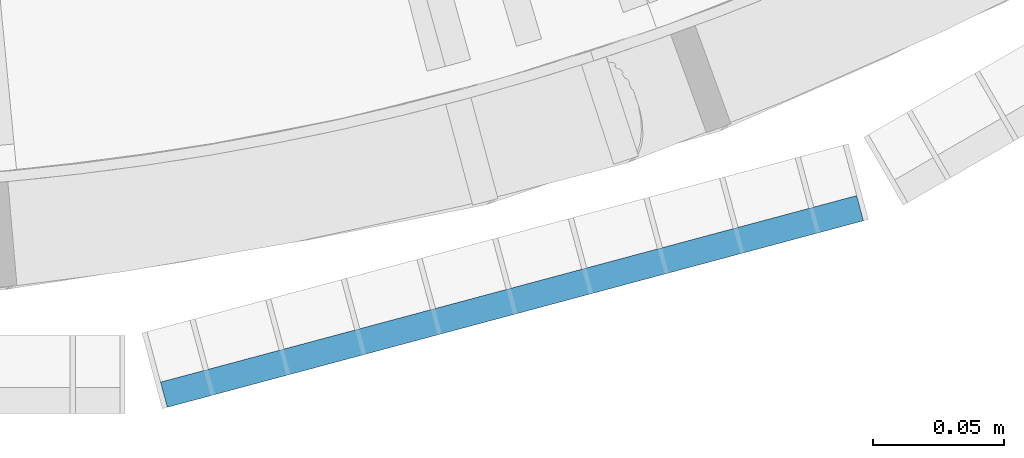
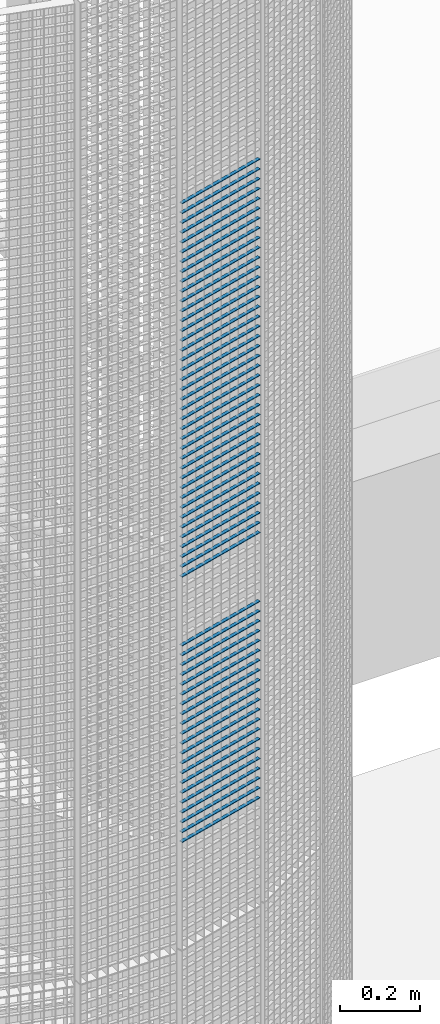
# One storey, part 377 of 1148: 60 beams, 1 element without a shape of its own.
"""IFC2X3 building model written with IfcOpenShell, lengths in millimetres."""

from ifc_helpers import new_model, si_unit, frame, origin_with_axes, origin_2d_with_axis, place, context, subcontext, project, spatial, rectangle, extrude, material, type_object, element, aggregate, save


model = new_model("IFC2X3")

# Units and contexts
model_context = context("Model", 3, precision=1e-05, world=origin_with_axes())
body_context = subcontext(model_context, "Body", "Model", "MODEL_VIEW")
ifc_project = project(units=[si_unit("LENGTHUNIT", "METRE", prefix="MILLI"), si_unit("AREAUNIT", "SQUARE_METRE"), si_unit("VOLUMEUNIT", "CUBIC_METRE"), si_unit("MASSUNIT", "GRAM", prefix="KILO"), si_unit("TIMEUNIT", "SECOND"), si_unit("PLANEANGLEUNIT", "RADIAN"), si_unit("SOLIDANGLEUNIT", "STERADIAN"), si_unit("THERMODYNAMICTEMPERATUREUNIT", "DEGREE_CELSIUS"), si_unit("LUMINOUSINTENSITYUNIT", "LUMEN")], contexts=[model_context])

# Site, building, storey
site_placement = place(None, origin_with_axes())
site = spatial("IfcSite", under=ifc_project, at=site_placement, Name="Undefined", CompositionType="ELEMENT")
building_placement = place(site_placement, origin_with_axes())
building = spatial("IfcBuilding", under=site, at=building_placement, Name="Undefined", CompositionType="ELEMENT")
storey_placement = place(building_placement, origin_with_axes())
storey = spatial("IfcBuildingStorey", under=building, at=storey_placement, Name="Undefined", CompositionType="ELEMENT", Elevation=0.0)

# Assembly, beams
assembly_placement = place(storey_placement, origin_with_axes())
assembly = element("IfcElementAssembly", 1, at=assembly_placement, inside=storey, Name="BORDURE", AssemblyPlace="NOTDEFINED", PredefinedType="NOTDEFINED")
ifc_material = material(Name="STEEL/S235JR")
beam_type = type_object("IfcBeamType", Name="PL2*10", PredefinedType="NOTDEFINED")
beam_1_placement = place(assembly_placement, frame((22021.4837339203, -1039.82309522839, 17280.0), z_axis=(0.258819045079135, -0.965925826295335, 0.0), x_axis=(-0.965925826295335, -0.258819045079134, 0.0)))
beam_1 = element("IfcBeam", 2, at=beam_1_placement, type_object=beam_type, material=ifc_material, Name="ENTRETOISE", context=body_context, shape_type="SweptSolid", body=[
    extrude(rectangle(XDim=2.0, YDim=10.0, at=origin_2d_with_axis()), frame((275.999999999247, 9.09494701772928e-13, 1.53210777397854e-14), z_axis=(-1.0, 0.0, 0.0), x_axis=(0.0, -1.0, 0.0)), (0.0, 0.0, 1.0), 276.0),
])
beam_2_placement = place(assembly_placement, frame((22021.4837339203, -1039.82309522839, 17250.0), z_axis=(0.258819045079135, -0.965925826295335, 0.0), x_axis=(-0.965925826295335, -0.258819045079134, 0.0)))
beam_2 = element("IfcBeam", 3, at=beam_2_placement, type_object=beam_type, material=ifc_material, Name="ENTRETOISE", context=body_context, shape_type="SweptSolid", body=[
    extrude(rectangle(XDim=2.0, YDim=10.0, at=origin_2d_with_axis()), frame((275.999999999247, 9.09494701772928e-13, 1.53210777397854e-14), z_axis=(-1.0, 0.0, 0.0), x_axis=(0.0, -1.0, 0.0)), (0.0, 0.0, 1.0), 276.0),
])
beam_3_placement = place(assembly_placement, frame((22021.4837339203, -1039.82309522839, 17220.0), z_axis=(0.258819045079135, -0.965925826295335, 0.0), x_axis=(-0.965925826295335, -0.258819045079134, 0.0)))
beam_3 = element("IfcBeam", 4, at=beam_3_placement, type_object=beam_type, material=ifc_material, Name="ENTRETOISE", context=body_context, shape_type="SweptSolid", body=[
    extrude(rectangle(XDim=2.0, YDim=10.0, at=origin_2d_with_axis()), frame((275.999999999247, 9.09494701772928e-13, 1.53210777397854e-14), z_axis=(-1.0, 0.0, 0.0), x_axis=(0.0, -1.0, 0.0)), (0.0, 0.0, 1.0), 276.0),
])
beam_4_placement = place(assembly_placement, frame((22021.4837339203, -1039.82309522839, 17190.0), z_axis=(0.258819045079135, -0.965925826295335, 0.0), x_axis=(-0.965925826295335, -0.258819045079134, 0.0)))
beam_4 = element("IfcBeam", 5, at=beam_4_placement, type_object=beam_type, material=ifc_material, Name="ENTRETOISE", context=body_context, shape_type="SweptSolid", body=[
    extrude(rectangle(XDim=2.0, YDim=10.0, at=origin_2d_with_axis()), frame((275.999999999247, 9.09494701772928e-13, 1.53210777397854e-14), z_axis=(-1.0, 0.0, 0.0), x_axis=(0.0, -1.0, 0.0)), (0.0, 0.0, 1.0), 276.0),
])
beam_5_placement = place(assembly_placement, frame((22021.4837339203, -1039.82309522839, 17160.0), z_axis=(0.258819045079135, -0.965925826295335, 0.0), x_axis=(-0.965925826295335, -0.258819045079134, 0.0)))
beam_5 = element("IfcBeam", 6, at=beam_5_placement, type_object=beam_type, material=ifc_material, Name="ENTRETOISE", context=body_context, shape_type="SweptSolid", body=[
    extrude(rectangle(XDim=2.0, YDim=10.0, at=origin_2d_with_axis()), frame((275.999999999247, 9.09494701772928e-13, 1.53210777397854e-14), z_axis=(-1.0, 0.0, 0.0), x_axis=(0.0, -1.0, 0.0)), (0.0, 0.0, 1.0), 276.0),
])
beam_6_placement = place(assembly_placement, frame((22021.4837339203, -1039.82309522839, 17130.0), z_axis=(0.258819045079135, -0.965925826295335, 0.0), x_axis=(-0.965925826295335, -0.258819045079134, 0.0)))
beam_6 = element("IfcBeam", 7, at=beam_6_placement, type_object=beam_type, material=ifc_material, Name="ENTRETOISE", context=body_context, shape_type="SweptSolid", body=[
    extrude(rectangle(XDim=2.0, YDim=10.0, at=origin_2d_with_axis()), frame((275.999999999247, 9.09494701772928e-13, 1.53210777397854e-14), z_axis=(-1.0, 0.0, 0.0), x_axis=(0.0, -1.0, 0.0)), (0.0, 0.0, 1.0), 276.0),
])
beam_7_placement = place(assembly_placement, frame((22021.4837339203, -1039.82309522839, 17100.0), z_axis=(0.258819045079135, -0.965925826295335, 0.0), x_axis=(-0.965925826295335, -0.258819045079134, 0.0)))
beam_7 = element("IfcBeam", 8, at=beam_7_placement, type_object=beam_type, material=ifc_material, Name="ENTRETOISE", context=body_context, shape_type="SweptSolid", body=[
    extrude(rectangle(XDim=2.0, YDim=10.0, at=origin_2d_with_axis()), frame((275.999999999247, 9.09494701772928e-13, 1.53210777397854e-14), z_axis=(-1.0, 0.0, 0.0), x_axis=(0.0, -1.0, 0.0)), (0.0, 0.0, 1.0), 276.0),
])
beam_8_placement = place(assembly_placement, frame((22021.4837339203, -1039.82309522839, 17070.0), z_axis=(0.258819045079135, -0.965925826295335, 0.0), x_axis=(-0.965925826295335, -0.258819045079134, 0.0)))
beam_8 = element("IfcBeam", 9, at=beam_8_placement, type_object=beam_type, material=ifc_material, Name="ENTRETOISE", context=body_context, shape_type="SweptSolid", body=[
    extrude(rectangle(XDim=2.0, YDim=10.0, at=origin_2d_with_axis()), frame((275.999999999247, 9.09494701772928e-13, 1.53210777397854e-14), z_axis=(-1.0, 0.0, 0.0), x_axis=(0.0, -1.0, 0.0)), (0.0, 0.0, 1.0), 276.0),
])
beam_9_placement = place(assembly_placement, frame((22021.4837339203, -1039.82309522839, 17040.0), z_axis=(0.258819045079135, -0.965925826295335, 0.0), x_axis=(-0.965925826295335, -0.258819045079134, 0.0)))
beam_9 = element("IfcBeam", 10, at=beam_9_placement, type_object=beam_type, material=ifc_material, Name="ENTRETOISE", context=body_context, shape_type="SweptSolid", body=[
    extrude(rectangle(XDim=2.0, YDim=10.0, at=origin_2d_with_axis()), frame((275.999999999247, 9.09494701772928e-13, 1.53210777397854e-14), z_axis=(-1.0, 0.0, 0.0), x_axis=(0.0, -1.0, 0.0)), (0.0, 0.0, 1.0), 276.0),
])
beam_10_placement = place(assembly_placement, frame((22021.4837339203, -1039.82309522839, 17010.0), z_axis=(0.258819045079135, -0.965925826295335, 0.0), x_axis=(-0.965925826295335, -0.258819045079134, 0.0)))
beam_10 = element("IfcBeam", 11, at=beam_10_placement, type_object=beam_type, material=ifc_material, Name="ENTRETOISE", context=body_context, shape_type="SweptSolid", body=[
    extrude(rectangle(XDim=2.0, YDim=10.0, at=origin_2d_with_axis()), frame((275.999999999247, 9.09494701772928e-13, 1.53210777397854e-14), z_axis=(-1.0, 0.0, 0.0), x_axis=(0.0, -1.0, 0.0)), (0.0, 0.0, 1.0), 276.0),
])
beam_11_placement = place(assembly_placement, frame((22021.4837339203, -1039.82309522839, 16980.0), z_axis=(0.258819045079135, -0.965925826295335, 0.0), x_axis=(-0.965925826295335, -0.258819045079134, 0.0)))
beam_11 = element("IfcBeam", 12, at=beam_11_placement, type_object=beam_type, material=ifc_material, Name="ENTRETOISE", context=body_context, shape_type="SweptSolid", body=[
    extrude(rectangle(XDim=2.0, YDim=10.0, at=origin_2d_with_axis()), frame((275.999999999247, 9.09494701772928e-13, 1.53210777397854e-14), z_axis=(-1.0, 0.0, 0.0), x_axis=(0.0, -1.0, 0.0)), (0.0, 0.0, 1.0), 276.0),
])
beam_12_placement = place(assembly_placement, frame((22021.4837339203, -1039.82309522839, 16950.0), z_axis=(0.258819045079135, -0.965925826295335, 0.0), x_axis=(-0.965925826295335, -0.258819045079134, 0.0)))
beam_12 = element("IfcBeam", 13, at=beam_12_placement, type_object=beam_type, material=ifc_material, Name="ENTRETOISE", context=body_context, shape_type="SweptSolid", body=[
    extrude(rectangle(XDim=2.0, YDim=10.0, at=origin_2d_with_axis()), frame((275.999999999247, 9.09494701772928e-13, 1.53210777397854e-14), z_axis=(-1.0, 0.0, 0.0), x_axis=(0.0, -1.0, 0.0)), (0.0, 0.0, 1.0), 276.0),
])
beam_13_placement = place(assembly_placement, frame((22021.4837339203, -1039.82309522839, 16920.0), z_axis=(0.258819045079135, -0.965925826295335, 0.0), x_axis=(-0.965925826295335, -0.258819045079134, 0.0)))
beam_13 = element("IfcBeam", 14, at=beam_13_placement, type_object=beam_type, material=ifc_material, Name="ENTRETOISE", context=body_context, shape_type="SweptSolid", body=[
    extrude(rectangle(XDim=2.0, YDim=10.0, at=origin_2d_with_axis()), frame((275.999999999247, 9.09494701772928e-13, 1.53210777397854e-14), z_axis=(-1.0, 0.0, 0.0), x_axis=(0.0, -1.0, 0.0)), (0.0, 0.0, 1.0), 276.0),
])
beam_14_placement = place(assembly_placement, frame((22021.4837339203, -1039.82309522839, 16890.0), z_axis=(0.258819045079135, -0.965925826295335, 0.0), x_axis=(-0.965925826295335, -0.258819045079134, 0.0)))
beam_14 = element("IfcBeam", 15, at=beam_14_placement, type_object=beam_type, material=ifc_material, Name="ENTRETOISE", context=body_context, shape_type="SweptSolid", body=[
    extrude(rectangle(XDim=2.0, YDim=10.0, at=origin_2d_with_axis()), frame((275.999999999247, 9.09494701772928e-13, 1.53210777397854e-14), z_axis=(-1.0, 0.0, 0.0), x_axis=(0.0, -1.0, 0.0)), (0.0, 0.0, 1.0), 276.0),
])
beam_15_placement = place(assembly_placement, frame((22021.4837339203, -1039.82309522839, 16860.0), z_axis=(0.258819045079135, -0.965925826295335, 0.0), x_axis=(-0.965925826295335, -0.258819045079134, 0.0)))
beam_15 = element("IfcBeam", 16, at=beam_15_placement, type_object=beam_type, material=ifc_material, Name="ENTRETOISE", context=body_context, shape_type="SweptSolid", body=[
    extrude(rectangle(XDim=2.0, YDim=10.0, at=origin_2d_with_axis()), frame((275.999999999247, 9.09494701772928e-13, 1.53210777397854e-14), z_axis=(-1.0, 0.0, 0.0), x_axis=(0.0, -1.0, 0.0)), (0.0, 0.0, 1.0), 276.0),
])
beam_16_placement = place(assembly_placement, frame((22021.4837339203, -1039.82309522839, 16830.0), z_axis=(0.258819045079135, -0.965925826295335, 0.0), x_axis=(-0.965925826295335, -0.258819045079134, 0.0)))
beam_16 = element("IfcBeam", 17, at=beam_16_placement, type_object=beam_type, material=ifc_material, Name="ENTRETOISE", context=body_context, shape_type="SweptSolid", body=[
    extrude(rectangle(XDim=2.0, YDim=10.0, at=origin_2d_with_axis()), frame((275.999999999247, 9.09494701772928e-13, 1.53210777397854e-14), z_axis=(-1.0, 0.0, 0.0), x_axis=(0.0, -1.0, 0.0)), (0.0, 0.0, 1.0), 276.0),
])
beam_17_placement = place(assembly_placement, frame((22021.4837339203, -1039.82309522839, 16800.0), z_axis=(0.258819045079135, -0.965925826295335, 0.0), x_axis=(-0.965925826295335, -0.258819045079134, 0.0)))
beam_17 = element("IfcBeam", 18, at=beam_17_placement, type_object=beam_type, material=ifc_material, Name="ENTRETOISE", context=body_context, shape_type="SweptSolid", body=[
    extrude(rectangle(XDim=2.0, YDim=10.0, at=origin_2d_with_axis()), frame((275.999999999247, 9.09494701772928e-13, 1.53210777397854e-14), z_axis=(-1.0, 0.0, 0.0), x_axis=(0.0, -1.0, 0.0)), (0.0, 0.0, 1.0), 276.0),
])
beam_18_placement = place(assembly_placement, frame((22021.4837339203, -1039.82309522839, 16770.0), z_axis=(0.258819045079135, -0.965925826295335, 0.0), x_axis=(-0.965925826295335, -0.258819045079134, 0.0)))
beam_18 = element("IfcBeam", 19, at=beam_18_placement, type_object=beam_type, material=ifc_material, Name="ENTRETOISE", context=body_context, shape_type="SweptSolid", body=[
    extrude(rectangle(XDim=2.0, YDim=10.0, at=origin_2d_with_axis()), frame((275.999999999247, 9.09494701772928e-13, 1.53210777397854e-14), z_axis=(-1.0, 0.0, 0.0), x_axis=(0.0, -1.0, 0.0)), (0.0, 0.0, 1.0), 276.0),
])
beam_19_placement = place(assembly_placement, frame((22021.4837339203, -1039.82309522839, 16740.0), z_axis=(0.258819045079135, -0.965925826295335, 0.0), x_axis=(-0.965925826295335, -0.258819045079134, 0.0)))
beam_19 = element("IfcBeam", 20, at=beam_19_placement, type_object=beam_type, material=ifc_material, Name="ENTRETOISE", context=body_context, shape_type="SweptSolid", body=[
    extrude(rectangle(XDim=2.0, YDim=10.0, at=origin_2d_with_axis()), frame((275.999999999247, 9.09494701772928e-13, 1.53210777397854e-14), z_axis=(-1.0, 0.0, 0.0), x_axis=(0.0, -1.0, 0.0)), (0.0, 0.0, 1.0), 276.0),
])
beam_20_placement = place(assembly_placement, frame((22021.4837339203, -1039.82309522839, 16710.0), z_axis=(0.258819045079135, -0.965925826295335, 0.0), x_axis=(-0.965925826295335, -0.258819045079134, 0.0)))
beam_20 = element("IfcBeam", 21, at=beam_20_placement, type_object=beam_type, material=ifc_material, Name="ENTRETOISE", context=body_context, shape_type="SweptSolid", body=[
    extrude(rectangle(XDim=2.0, YDim=10.0, at=origin_2d_with_axis()), frame((275.999999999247, 9.09494701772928e-13, 1.53210777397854e-14), z_axis=(-1.0, 0.0, 0.0), x_axis=(0.0, -1.0, 0.0)), (0.0, 0.0, 1.0), 276.0),
])
beam_21_placement = place(assembly_placement, frame((22021.4837339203, -1039.82309522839, 16680.0), z_axis=(0.258819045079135, -0.965925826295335, 0.0), x_axis=(-0.965925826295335, -0.258819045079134, 0.0)))
beam_21 = element("IfcBeam", 22, at=beam_21_placement, type_object=beam_type, material=ifc_material, Name="ENTRETOISE", context=body_context, shape_type="SweptSolid", body=[
    extrude(rectangle(XDim=2.0, YDim=10.0, at=origin_2d_with_axis()), frame((275.999999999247, 9.09494701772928e-13, 1.53210777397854e-14), z_axis=(-1.0, 0.0, 0.0), x_axis=(0.0, -1.0, 0.0)), (0.0, 0.0, 1.0), 276.0),
])
beam_22_placement = place(assembly_placement, frame((22021.4837339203, -1039.82309522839, 16650.0), z_axis=(0.258819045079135, -0.965925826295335, 0.0), x_axis=(-0.965925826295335, -0.258819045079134, 0.0)))
beam_22 = element("IfcBeam", 23, at=beam_22_placement, type_object=beam_type, material=ifc_material, Name="ENTRETOISE", context=body_context, shape_type="SweptSolid", body=[
    extrude(rectangle(XDim=2.0, YDim=10.0, at=origin_2d_with_axis()), frame((275.999999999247, 9.09494701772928e-13, 1.53210777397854e-14), z_axis=(-1.0, 0.0, 0.0), x_axis=(0.0, -1.0, 0.0)), (0.0, 0.0, 1.0), 276.0),
])
beam_23_placement = place(assembly_placement, frame((22021.4837339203, -1039.82309522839, 16620.0), z_axis=(0.258819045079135, -0.965925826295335, 0.0), x_axis=(-0.965925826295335, -0.258819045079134, 0.0)))
beam_23 = element("IfcBeam", 24, at=beam_23_placement, type_object=beam_type, material=ifc_material, Name="ENTRETOISE", context=body_context, shape_type="SweptSolid", body=[
    extrude(rectangle(XDim=2.0, YDim=10.0, at=origin_2d_with_axis()), frame((275.999999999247, 9.09494701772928e-13, 1.53210777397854e-14), z_axis=(-1.0, 0.0, 0.0), x_axis=(0.0, -1.0, 0.0)), (0.0, 0.0, 1.0), 276.0),
])
beam_24_placement = place(assembly_placement, frame((22021.4837339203, -1039.82309522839, 16590.0), z_axis=(0.258819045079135, -0.965925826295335, 0.0), x_axis=(-0.965925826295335, -0.258819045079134, 0.0)))
beam_24 = element("IfcBeam", 25, at=beam_24_placement, type_object=beam_type, material=ifc_material, Name="ENTRETOISE", context=body_context, shape_type="SweptSolid", body=[
    extrude(rectangle(XDim=2.0, YDim=10.0, at=origin_2d_with_axis()), frame((275.999999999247, 9.09494701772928e-13, 1.53210777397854e-14), z_axis=(-1.0, 0.0, 0.0), x_axis=(0.0, -1.0, 0.0)), (0.0, 0.0, 1.0), 276.0),
])
beam_25_placement = place(assembly_placement, frame((22021.4837339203, -1039.82309522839, 16560.0), z_axis=(0.258819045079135, -0.965925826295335, 0.0), x_axis=(-0.965925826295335, -0.258819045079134, 0.0)))
beam_25 = element("IfcBeam", 26, at=beam_25_placement, type_object=beam_type, material=ifc_material, Name="ENTRETOISE", context=body_context, shape_type="SweptSolid", body=[
    extrude(rectangle(XDim=2.0, YDim=10.0, at=origin_2d_with_axis()), frame((275.999999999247, 9.09494701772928e-13, 1.53210777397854e-14), z_axis=(-1.0, 0.0, 0.0), x_axis=(0.0, -1.0, 0.0)), (0.0, 0.0, 1.0), 276.0),
])
beam_26_placement = place(assembly_placement, frame((22021.4837339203, -1039.82309522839, 16530.0), z_axis=(0.258819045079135, -0.965925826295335, 0.0), x_axis=(-0.965925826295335, -0.258819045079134, 0.0)))
beam_26 = element("IfcBeam", 27, at=beam_26_placement, type_object=beam_type, material=ifc_material, Name="ENTRETOISE", context=body_context, shape_type="SweptSolid", body=[
    extrude(rectangle(XDim=2.0, YDim=10.0, at=origin_2d_with_axis()), frame((275.999999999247, 9.09494701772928e-13, 1.53210777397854e-14), z_axis=(-1.0, 0.0, 0.0), x_axis=(0.0, -1.0, 0.0)), (0.0, 0.0, 1.0), 276.0),
])
beam_27_placement = place(assembly_placement, frame((22021.4837339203, -1039.82309522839, 16500.0), z_axis=(0.258819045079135, -0.965925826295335, 0.0), x_axis=(-0.965925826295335, -0.258819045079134, 0.0)))
beam_27 = element("IfcBeam", 28, at=beam_27_placement, type_object=beam_type, material=ifc_material, Name="ENTRETOISE", context=body_context, shape_type="SweptSolid", body=[
    extrude(rectangle(XDim=2.0, YDim=10.0, at=origin_2d_with_axis()), frame((275.999999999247, 9.09494701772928e-13, 1.53210777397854e-14), z_axis=(-1.0, 0.0, 0.0), x_axis=(0.0, -1.0, 0.0)), (0.0, 0.0, 1.0), 276.0),
])
beam_28_placement = place(assembly_placement, frame((22021.4837339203, -1039.82309522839, 16470.0), z_axis=(0.258819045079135, -0.965925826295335, 0.0), x_axis=(-0.965925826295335, -0.258819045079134, 0.0)))
beam_28 = element("IfcBeam", 29, at=beam_28_placement, type_object=beam_type, material=ifc_material, Name="ENTRETOISE", context=body_context, shape_type="SweptSolid", body=[
    extrude(rectangle(XDim=2.0, YDim=10.0, at=origin_2d_with_axis()), frame((275.999999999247, 9.09494701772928e-13, 1.53210777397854e-14), z_axis=(-1.0, 0.0, 0.0), x_axis=(0.0, -1.0, 0.0)), (0.0, 0.0, 1.0), 276.0),
])
beam_29_placement = place(assembly_placement, frame((22021.4837339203, -1039.82309522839, 16440.0), z_axis=(0.258819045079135, -0.965925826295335, 0.0), x_axis=(-0.965925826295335, -0.258819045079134, 0.0)))
beam_29 = element("IfcBeam", 30, at=beam_29_placement, type_object=beam_type, material=ifc_material, Name="ENTRETOISE", context=body_context, shape_type="SweptSolid", body=[
    extrude(rectangle(XDim=2.0, YDim=10.0, at=origin_2d_with_axis()), frame((275.999999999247, 9.09494701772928e-13, 1.53210777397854e-14), z_axis=(-1.0, 0.0, 0.0), x_axis=(0.0, -1.0, 0.0)), (0.0, 0.0, 1.0), 276.0),
])
beam_30_placement = place(assembly_placement, frame((22021.4837339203, -1039.82309522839, 16410.0), z_axis=(0.258819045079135, -0.965925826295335, 0.0), x_axis=(-0.965925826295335, -0.258819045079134, 0.0)))
beam_30 = element("IfcBeam", 31, at=beam_30_placement, type_object=beam_type, material=ifc_material, Name="ENTRETOISE", context=body_context, shape_type="SweptSolid", body=[
    extrude(rectangle(XDim=2.0, YDim=10.0, at=origin_2d_with_axis()), frame((275.999999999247, 9.09494701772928e-13, 1.53210777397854e-14), z_axis=(-1.0, 0.0, 0.0), x_axis=(0.0, -1.0, 0.0)), (0.0, 0.0, 1.0), 276.0),
])
beam_31_placement = place(assembly_placement, frame((22021.4837339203, -1039.82309522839, 16380.0), z_axis=(0.258819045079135, -0.965925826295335, 0.0), x_axis=(-0.965925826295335, -0.258819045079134, 0.0)))
beam_31 = element("IfcBeam", 32, at=beam_31_placement, type_object=beam_type, material=ifc_material, Name="ENTRETOISE", context=body_context, shape_type="SweptSolid", body=[
    extrude(rectangle(XDim=2.0, YDim=10.0, at=origin_2d_with_axis()), frame((275.999999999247, 9.09494701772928e-13, 1.53210777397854e-14), z_axis=(-1.0, 0.0, 0.0), x_axis=(0.0, -1.0, 0.0)), (0.0, 0.0, 1.0), 276.0),
])
beam_32_placement = place(assembly_placement, frame((22021.4837339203, -1039.82309522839, 16350.0), z_axis=(0.258819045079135, -0.965925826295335, 0.0), x_axis=(-0.965925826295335, -0.258819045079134, 0.0)))
beam_32 = element("IfcBeam", 33, at=beam_32_placement, type_object=beam_type, material=ifc_material, Name="ENTRETOISE", context=body_context, shape_type="SweptSolid", body=[
    extrude(rectangle(XDim=2.0, YDim=10.0, at=origin_2d_with_axis()), frame((275.999999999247, 9.09494701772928e-13, 1.53210777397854e-14), z_axis=(-1.0, 0.0, 0.0), x_axis=(0.0, -1.0, 0.0)), (0.0, 0.0, 1.0), 276.0),
])
beam_33_placement = place(assembly_placement, frame((22021.4837339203, -1039.82309522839, 16320.0), z_axis=(0.258819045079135, -0.965925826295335, 0.0), x_axis=(-0.965925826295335, -0.258819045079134, 0.0)))
beam_33 = element("IfcBeam", 34, at=beam_33_placement, type_object=beam_type, material=ifc_material, Name="ENTRETOISE", context=body_context, shape_type="SweptSolid", body=[
    extrude(rectangle(XDim=2.0, YDim=10.0, at=origin_2d_with_axis()), frame((275.999999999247, 9.09494701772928e-13, 1.53210777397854e-14), z_axis=(-1.0, 0.0, 0.0), x_axis=(0.0, -1.0, 0.0)), (0.0, 0.0, 1.0), 276.0),
])
beam_34_placement = place(assembly_placement, frame((22021.4837339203, -1039.82309522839, 16290.0), z_axis=(0.258819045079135, -0.965925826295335, 0.0), x_axis=(-0.965925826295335, -0.258819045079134, 0.0)))
beam_34 = element("IfcBeam", 35, at=beam_34_placement, type_object=beam_type, material=ifc_material, Name="ENTRETOISE", context=body_context, shape_type="SweptSolid", body=[
    extrude(rectangle(XDim=2.0, YDim=10.0, at=origin_2d_with_axis()), frame((275.999999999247, 9.09494701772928e-13, 1.53210777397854e-14), z_axis=(-1.0, 0.0, 0.0), x_axis=(0.0, -1.0, 0.0)), (0.0, 0.0, 1.0), 276.0),
])
beam_35_placement = place(assembly_placement, frame((22021.4837339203, -1039.82309522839, 16260.0), z_axis=(0.258819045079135, -0.965925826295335, 0.0), x_axis=(-0.965925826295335, -0.258819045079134, 0.0)))
beam_35 = element("IfcBeam", 36, at=beam_35_placement, type_object=beam_type, material=ifc_material, Name="ENTRETOISE", context=body_context, shape_type="SweptSolid", body=[
    extrude(rectangle(XDim=2.0, YDim=10.0, at=origin_2d_with_axis()), frame((275.999999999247, 9.09494701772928e-13, 1.53210777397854e-14), z_axis=(-1.0, 0.0, 0.0), x_axis=(0.0, -1.0, 0.0)), (0.0, 0.0, 1.0), 276.0),
])
beam_36_placement = place(assembly_placement, frame((22021.4837339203, -1039.82309522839, 16230.0), z_axis=(0.258819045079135, -0.965925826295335, 0.0), x_axis=(-0.965925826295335, -0.258819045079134, 0.0)))
beam_36 = element("IfcBeam", 37, at=beam_36_placement, type_object=beam_type, material=ifc_material, Name="ENTRETOISE", context=body_context, shape_type="SweptSolid", body=[
    extrude(rectangle(XDim=2.0, YDim=10.0, at=origin_2d_with_axis()), frame((275.999999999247, 9.09494701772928e-13, 1.53210777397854e-14), z_axis=(-1.0, 0.0, 0.0), x_axis=(0.0, -1.0, 0.0)), (0.0, 0.0, 1.0), 276.0),
])
beam_37_placement = place(assembly_placement, frame((22021.4837339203, -1039.82309522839, 16200.0), z_axis=(0.258819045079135, -0.965925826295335, 0.0), x_axis=(-0.965925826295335, -0.258819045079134, 0.0)))
beam_37 = element("IfcBeam", 38, at=beam_37_placement, type_object=beam_type, material=ifc_material, Name="ENTRETOISE", context=body_context, shape_type="SweptSolid", body=[
    extrude(rectangle(XDim=2.0, YDim=10.0, at=origin_2d_with_axis()), frame((275.999999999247, 9.09494701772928e-13, 1.53210777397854e-14), z_axis=(-1.0, 0.0, 0.0), x_axis=(0.0, -1.0, 0.0)), (0.0, 0.0, 1.0), 276.0),
])
beam_38_placement = place(assembly_placement, frame((22021.4837339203, -1039.82309522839, 16170.0), z_axis=(0.258819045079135, -0.965925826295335, 0.0), x_axis=(-0.965925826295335, -0.258819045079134, 0.0)))
beam_38 = element("IfcBeam", 39, at=beam_38_placement, type_object=beam_type, material=ifc_material, Name="ENTRETOISE", context=body_context, shape_type="SweptSolid", body=[
    extrude(rectangle(XDim=2.0, YDim=10.0, at=origin_2d_with_axis()), frame((275.999999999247, 9.09494701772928e-13, 1.53210777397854e-14), z_axis=(-1.0, 0.0, 0.0), x_axis=(0.0, -1.0, 0.0)), (0.0, 0.0, 1.0), 276.0),
])
beam_39_placement = place(assembly_placement, frame((22021.4837339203, -1039.82309522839, 16140.0), z_axis=(0.258819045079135, -0.965925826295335, 0.0), x_axis=(-0.965925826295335, -0.258819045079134, 0.0)))
beam_39 = element("IfcBeam", 40, at=beam_39_placement, type_object=beam_type, material=ifc_material, Name="ENTRETOISE", context=body_context, shape_type="SweptSolid", body=[
    extrude(rectangle(XDim=2.0, YDim=10.0, at=origin_2d_with_axis()), frame((275.999999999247, 9.09494701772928e-13, 1.53210777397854e-14), z_axis=(-1.0, 0.0, 0.0), x_axis=(0.0, -1.0, 0.0)), (0.0, 0.0, 1.0), 276.0),
])
beam_40_placement = place(assembly_placement, frame((22021.4837339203, -1039.82309522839, 15720.0), z_axis=(0.258819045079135, -0.965925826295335, 0.0), x_axis=(-0.965925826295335, -0.258819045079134, 0.0)))
beam_40 = element("IfcBeam", 41, at=beam_40_placement, type_object=beam_type, material=ifc_material, Name="ENTRETOISE", context=body_context, shape_type="SweptSolid", body=[
    extrude(rectangle(XDim=2.0, YDim=10.0, at=origin_2d_with_axis()), frame((275.999999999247, 9.09494701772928e-13, 1.53210777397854e-14), z_axis=(-1.0, 0.0, 0.0), x_axis=(0.0, -1.0, 0.0)), (0.0, 0.0, 1.0), 276.0),
])
beam_41_placement = place(assembly_placement, frame((22021.4837339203, -1039.82309522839, 15690.0), z_axis=(0.258819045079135, -0.965925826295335, 0.0), x_axis=(-0.965925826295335, -0.258819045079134, 0.0)))
beam_41 = element("IfcBeam", 42, at=beam_41_placement, type_object=beam_type, material=ifc_material, Name="ENTRETOISE", context=body_context, shape_type="SweptSolid", body=[
    extrude(rectangle(XDim=2.0, YDim=10.0, at=origin_2d_with_axis()), frame((275.999999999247, 9.09494701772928e-13, 1.53210777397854e-14), z_axis=(-1.0, 0.0, 0.0), x_axis=(0.0, -1.0, 0.0)), (0.0, 0.0, 1.0), 276.0),
])
beam_42_placement = place(assembly_placement, frame((22021.4837339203, -1039.82309522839, 15750.0), z_axis=(0.258819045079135, -0.965925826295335, 0.0), x_axis=(-0.965925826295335, -0.258819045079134, 0.0)))
beam_42 = element("IfcBeam", 43, at=beam_42_placement, type_object=beam_type, material=ifc_material, Name="ENTRETOISE", context=body_context, shape_type="SweptSolid", body=[
    extrude(rectangle(XDim=2.0, YDim=10.0, at=origin_2d_with_axis()), frame((275.999999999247, 9.09494701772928e-13, 1.53210777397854e-14), z_axis=(-1.0, 0.0, 0.0), x_axis=(0.0, -1.0, 0.0)), (0.0, 0.0, 1.0), 276.0),
])
beam_43_placement = place(assembly_placement, frame((22021.4837339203, -1039.82309522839, 15660.0), z_axis=(0.258819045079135, -0.965925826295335, 0.0), x_axis=(-0.965925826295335, -0.258819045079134, 0.0)))
beam_43 = element("IfcBeam", 44, at=beam_43_placement, type_object=beam_type, material=ifc_material, Name="ENTRETOISE", context=body_context, shape_type="SweptSolid", body=[
    extrude(rectangle(XDim=2.0, YDim=10.0, at=origin_2d_with_axis()), frame((275.999999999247, 9.09494701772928e-13, 1.53210777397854e-14), z_axis=(-1.0, 0.0, 0.0), x_axis=(0.0, -1.0, 0.0)), (0.0, 0.0, 1.0), 276.0),
])
beam_44_placement = place(assembly_placement, frame((22021.4837339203, -1039.82309522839, 15630.0), z_axis=(0.258819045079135, -0.965925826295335, 0.0), x_axis=(-0.965925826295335, -0.258819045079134, 0.0)))
beam_44 = element("IfcBeam", 45, at=beam_44_placement, type_object=beam_type, material=ifc_material, Name="ENTRETOISE", context=body_context, shape_type="SweptSolid", body=[
    extrude(rectangle(XDim=2.0, YDim=10.0, at=origin_2d_with_axis()), frame((275.999999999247, 9.09494701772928e-13, 1.53210777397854e-14), z_axis=(-1.0, 0.0, 0.0), x_axis=(0.0, -1.0, 0.0)), (0.0, 0.0, 1.0), 276.0),
])
beam_45_placement = place(assembly_placement, frame((22021.4837339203, -1039.82309522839, 15780.0), z_axis=(0.258819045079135, -0.965925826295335, 0.0), x_axis=(-0.965925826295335, -0.258819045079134, 0.0)))
beam_45 = element("IfcBeam", 46, at=beam_45_placement, type_object=beam_type, material=ifc_material, Name="ENTRETOISE", context=body_context, shape_type="SweptSolid", body=[
    extrude(rectangle(XDim=2.0, YDim=10.0, at=origin_2d_with_axis()), frame((275.999999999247, 9.09494701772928e-13, 1.53210777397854e-14), z_axis=(-1.0, 0.0, 0.0), x_axis=(0.0, -1.0, 0.0)), (0.0, 0.0, 1.0), 276.0),
])
beam_46_placement = place(assembly_placement, frame((22021.4837339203, -1039.82309522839, 15600.0), z_axis=(0.258819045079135, -0.965925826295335, 0.0), x_axis=(-0.965925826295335, -0.258819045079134, 0.0)))
beam_46 = element("IfcBeam", 47, at=beam_46_placement, type_object=beam_type, material=ifc_material, Name="ENTRETOISE", context=body_context, shape_type="SweptSolid", body=[
    extrude(rectangle(XDim=2.0, YDim=10.0, at=origin_2d_with_axis()), frame((275.999999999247, 9.09494701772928e-13, 1.53210777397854e-14), z_axis=(-1.0, 0.0, 0.0), x_axis=(0.0, -1.0, 0.0)), (0.0, 0.0, 1.0), 276.0),
])
beam_47_placement = place(assembly_placement, frame((22021.4837339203, -1039.82309522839, 15810.0), z_axis=(0.258819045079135, -0.965925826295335, 0.0), x_axis=(-0.965925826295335, -0.258819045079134, 0.0)))
beam_47 = element("IfcBeam", 48, at=beam_47_placement, type_object=beam_type, material=ifc_material, Name="ENTRETOISE", context=body_context, shape_type="SweptSolid", body=[
    extrude(rectangle(XDim=2.0, YDim=10.0, at=origin_2d_with_axis()), frame((275.999999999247, 9.09494701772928e-13, 1.53210777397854e-14), z_axis=(-1.0, 0.0, 0.0), x_axis=(0.0, -1.0, 0.0)), (0.0, 0.0, 1.0), 276.0),
])
beam_48_placement = place(assembly_placement, frame((22021.4837339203, -1039.82309522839, 15570.0), z_axis=(0.258819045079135, -0.965925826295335, 0.0), x_axis=(-0.965925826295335, -0.258819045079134, 0.0)))
beam_48 = element("IfcBeam", 49, at=beam_48_placement, type_object=beam_type, material=ifc_material, Name="ENTRETOISE", context=body_context, shape_type="SweptSolid", body=[
    extrude(rectangle(XDim=2.0, YDim=10.0, at=origin_2d_with_axis()), frame((275.999999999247, 9.09494701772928e-13, 1.53210777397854e-14), z_axis=(-1.0, 0.0, 0.0), x_axis=(0.0, -1.0, 0.0)), (0.0, 0.0, 1.0), 276.0),
])
beam_49_placement = place(assembly_placement, frame((22021.4837339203, -1039.82309522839, 15540.0), z_axis=(0.258819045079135, -0.965925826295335, 0.0), x_axis=(-0.965925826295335, -0.258819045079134, 0.0)))
beam_49 = element("IfcBeam", 50, at=beam_49_placement, type_object=beam_type, material=ifc_material, Name="ENTRETOISE", context=body_context, shape_type="SweptSolid", body=[
    extrude(rectangle(XDim=2.0, YDim=10.0, at=origin_2d_with_axis()), frame((275.999999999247, 9.09494701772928e-13, 1.53210777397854e-14), z_axis=(-1.0, 0.0, 0.0), x_axis=(0.0, -1.0, 0.0)), (0.0, 0.0, 1.0), 276.0),
])
beam_50_placement = place(assembly_placement, frame((22021.4837339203, -1039.82309522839, 15840.0), z_axis=(0.258819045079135, -0.965925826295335, 0.0), x_axis=(-0.965925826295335, -0.258819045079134, 0.0)))
beam_50 = element("IfcBeam", 51, at=beam_50_placement, type_object=beam_type, material=ifc_material, Name="ENTRETOISE", context=body_context, shape_type="SweptSolid", body=[
    extrude(rectangle(XDim=2.0, YDim=10.0, at=origin_2d_with_axis()), frame((275.999999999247, 9.09494701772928e-13, 1.53210777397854e-14), z_axis=(-1.0, 0.0, 0.0), x_axis=(0.0, -1.0, 0.0)), (0.0, 0.0, 1.0), 276.0),
])
beam_51_placement = place(assembly_placement, frame((22021.4837339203, -1039.82309522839, 15510.0), z_axis=(0.258819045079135, -0.965925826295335, 0.0), x_axis=(-0.965925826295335, -0.258819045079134, 0.0)))
beam_51 = element("IfcBeam", 52, at=beam_51_placement, type_object=beam_type, material=ifc_material, Name="ENTRETOISE", context=body_context, shape_type="SweptSolid", body=[
    extrude(rectangle(XDim=2.0, YDim=10.0, at=origin_2d_with_axis()), frame((275.999999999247, 9.09494701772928e-13, 1.53210777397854e-14), z_axis=(-1.0, 0.0, 0.0), x_axis=(0.0, -1.0, 0.0)), (0.0, 0.0, 1.0), 276.0),
])
beam_52_placement = place(assembly_placement, frame((22021.4837339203, -1039.82309522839, 15480.0), z_axis=(0.258819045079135, -0.965925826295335, 0.0), x_axis=(-0.965925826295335, -0.258819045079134, 0.0)))
beam_52 = element("IfcBeam", 53, at=beam_52_placement, type_object=beam_type, material=ifc_material, Name="ENTRETOISE", context=body_context, shape_type="SweptSolid", body=[
    extrude(rectangle(XDim=2.0, YDim=10.0, at=origin_2d_with_axis()), frame((275.999999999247, 9.09494701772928e-13, 1.53210777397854e-14), z_axis=(-1.0, 0.0, 0.0), x_axis=(0.0, -1.0, 0.0)), (0.0, 0.0, 1.0), 276.0),
])
beam_53_placement = place(assembly_placement, frame((22021.4837339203, -1039.82309522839, 15870.0), z_axis=(0.258819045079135, -0.965925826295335, 0.0), x_axis=(-0.965925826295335, -0.258819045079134, 0.0)))
beam_53 = element("IfcBeam", 54, at=beam_53_placement, type_object=beam_type, material=ifc_material, Name="ENTRETOISE", context=body_context, shape_type="SweptSolid", body=[
    extrude(rectangle(XDim=2.0, YDim=10.0, at=origin_2d_with_axis()), frame((275.999999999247, 9.09494701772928e-13, 1.53210777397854e-14), z_axis=(-1.0, 0.0, 0.0), x_axis=(0.0, -1.0, 0.0)), (0.0, 0.0, 1.0), 276.0),
])
beam_54_placement = place(assembly_placement, frame((22021.4837339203, -1039.82309522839, 15450.0), z_axis=(0.258819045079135, -0.965925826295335, 0.0), x_axis=(-0.965925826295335, -0.258819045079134, 0.0)))
beam_54 = element("IfcBeam", 55, at=beam_54_placement, type_object=beam_type, material=ifc_material, Name="ENTRETOISE", context=body_context, shape_type="SweptSolid", body=[
    extrude(rectangle(XDim=2.0, YDim=10.0, at=origin_2d_with_axis()), frame((275.999999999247, 9.09494701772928e-13, 1.53210777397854e-14), z_axis=(-1.0, 0.0, 0.0), x_axis=(0.0, -1.0, 0.0)), (0.0, 0.0, 1.0), 276.0),
])
beam_55_placement = place(assembly_placement, frame((22021.4837339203, -1039.82309522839, 15420.0), z_axis=(0.258819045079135, -0.965925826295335, 0.0), x_axis=(-0.965925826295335, -0.258819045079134, 0.0)))
beam_55 = element("IfcBeam", 56, at=beam_55_placement, type_object=beam_type, material=ifc_material, Name="ENTRETOISE", context=body_context, shape_type="SweptSolid", body=[
    extrude(rectangle(XDim=2.0, YDim=10.0, at=origin_2d_with_axis()), frame((275.999999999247, 9.09494701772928e-13, 1.53210777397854e-14), z_axis=(-1.0, 0.0, 0.0), x_axis=(0.0, -1.0, 0.0)), (0.0, 0.0, 1.0), 276.0),
])
beam_56_placement = place(assembly_placement, frame((22021.4837339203, -1039.82309522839, 15900.0), z_axis=(0.258819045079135, -0.965925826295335, 0.0), x_axis=(-0.965925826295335, -0.258819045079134, 0.0)))
beam_56 = element("IfcBeam", 57, at=beam_56_placement, type_object=beam_type, material=ifc_material, Name="ENTRETOISE", context=body_context, shape_type="SweptSolid", body=[
    extrude(rectangle(XDim=2.0, YDim=10.0, at=origin_2d_with_axis()), frame((275.999999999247, 9.09494701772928e-13, 1.53210777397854e-14), z_axis=(-1.0, 0.0, 0.0), x_axis=(0.0, -1.0, 0.0)), (0.0, 0.0, 1.0), 276.0),
])
beam_57_placement = place(assembly_placement, frame((22021.4837339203, -1039.82309522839, 15390.0), z_axis=(0.258819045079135, -0.965925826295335, 0.0), x_axis=(-0.965925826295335, -0.258819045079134, 0.0)))
beam_57 = element("IfcBeam", 58, at=beam_57_placement, type_object=beam_type, material=ifc_material, Name="ENTRETOISE", context=body_context, shape_type="SweptSolid", body=[
    extrude(rectangle(XDim=2.0, YDim=10.0, at=origin_2d_with_axis()), frame((275.999999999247, 9.09494701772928e-13, 1.53210777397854e-14), z_axis=(-1.0, 0.0, 0.0), x_axis=(0.0, -1.0, 0.0)), (0.0, 0.0, 1.0), 276.0),
])
beam_58_placement = place(assembly_placement, frame((22021.4837339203, -1039.82309522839, 15930.0), z_axis=(0.258819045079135, -0.965925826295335, 0.0), x_axis=(-0.965925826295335, -0.258819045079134, 0.0)))
beam_58 = element("IfcBeam", 59, at=beam_58_placement, type_object=beam_type, material=ifc_material, Name="ENTRETOISE", context=body_context, shape_type="SweptSolid", body=[
    extrude(rectangle(XDim=2.0, YDim=10.0, at=origin_2d_with_axis()), frame((275.999999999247, 9.09494701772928e-13, 1.53210777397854e-14), z_axis=(-1.0, 0.0, 0.0), x_axis=(0.0, -1.0, 0.0)), (0.0, 0.0, 1.0), 276.0),
])
beam_59_placement = place(assembly_placement, frame((22021.4837339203, -1039.82309522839, 15360.0), z_axis=(0.258819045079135, -0.965925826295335, 0.0), x_axis=(-0.965925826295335, -0.258819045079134, 0.0)))
beam_59 = element("IfcBeam", 60, at=beam_59_placement, type_object=beam_type, material=ifc_material, Name="ENTRETOISE", context=body_context, shape_type="SweptSolid", body=[
    extrude(rectangle(XDim=2.0, YDim=10.0, at=origin_2d_with_axis()), frame((275.999999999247, 9.09494701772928e-13, 1.53210777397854e-14), z_axis=(-1.0, 0.0, 0.0), x_axis=(0.0, -1.0, 0.0)), (0.0, 0.0, 1.0), 276.0),
])
beam_60_placement = place(assembly_placement, frame((22021.4837339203, -1039.82309522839, 15330.0), z_axis=(0.258819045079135, -0.965925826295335, 0.0), x_axis=(-0.965925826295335, -0.258819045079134, 0.0)))
beam_60 = element("IfcBeam", 61, at=beam_60_placement, type_object=beam_type, material=ifc_material, Name="ENTRETOISE", context=body_context, shape_type="SweptSolid", body=[
    extrude(rectangle(XDim=2.0, YDim=10.0, at=origin_2d_with_axis()), frame((275.999999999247, 9.09494701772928e-13, 1.53210777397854e-14), z_axis=(-1.0, 0.0, 0.0), x_axis=(0.0, -1.0, 0.0)), (0.0, 0.0, 1.0), 276.0),
])
aggregate(assembly, [beam_1, beam_2, beam_3, beam_4, beam_5, beam_6, beam_7, beam_8, beam_9, beam_10, beam_11, beam_12, beam_13, beam_14, beam_15, beam_16, beam_17, beam_18, beam_19, beam_20, beam_21, beam_22, beam_23, beam_24, beam_25, beam_26, beam_27, beam_28, beam_29, beam_30, beam_31, beam_32, beam_33, beam_34, beam_35, beam_36, beam_37, beam_38, beam_39, beam_40, beam_41, beam_42, beam_43, beam_44, beam_45, beam_46, beam_47, beam_48, beam_49, beam_50, beam_51, beam_52, beam_53, beam_54, beam_55, beam_56, beam_57, beam_58, beam_59, beam_60])

save(model, "model.ifc")
